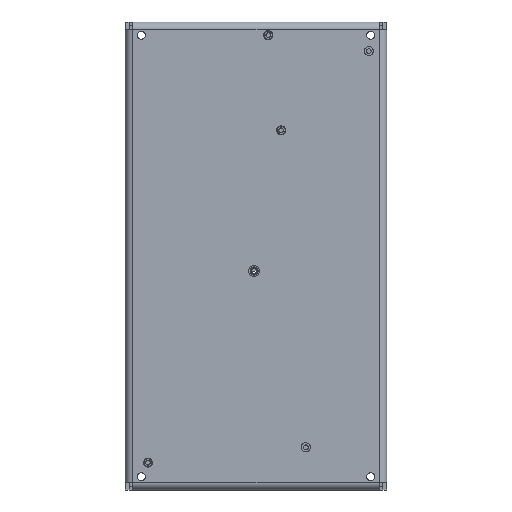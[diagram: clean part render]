
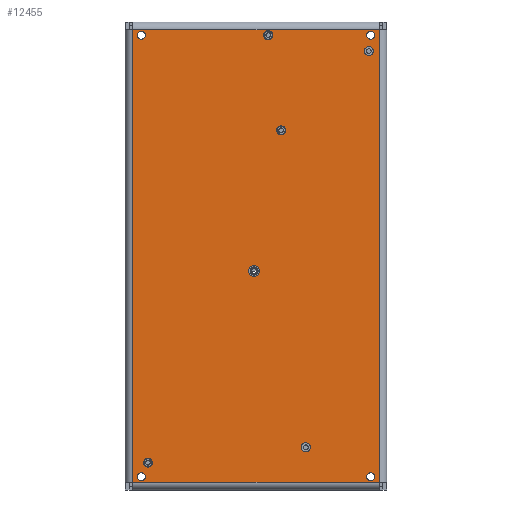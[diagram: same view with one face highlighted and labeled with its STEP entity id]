
A CAD part, front view. The second image highlights one B-rep face of the part: STEP entity #12455.
In plain terms, the highlighted planar face has unit normal (0, -1, 0).
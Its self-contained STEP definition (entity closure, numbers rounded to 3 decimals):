
#12455=ADVANCED_FACE('',(#28101,#28103,#28105,#28107,#28109,#28111,#28113,#28115,
#28117,#28119,#28121),#28123,.T.);
#28101=FACE_BOUND('',#28102,.T.);
#28102=EDGE_LOOP('',(#40599,#40600,#40601,#40602));
#28103=FACE_BOUND('',#28104,.T.);
#28104=EDGE_LOOP('',(#40603));
#28105=FACE_BOUND('',#28106,.T.);
#28106=EDGE_LOOP('',(#40604));
#28107=FACE_BOUND('',#28108,.T.);
#28108=EDGE_LOOP('',(#40605));
#28109=FACE_BOUND('',#28110,.T.);
#28110=EDGE_LOOP('',(#40606));
#28111=FACE_BOUND('',#28112,.T.);
#28112=EDGE_LOOP('',(#40607));
#28113=FACE_BOUND('',#28114,.T.);
#28114=EDGE_LOOP('',(#40608));
#28115=FACE_BOUND('',#28116,.T.);
#28116=EDGE_LOOP('',(#40609));
#28117=FACE_BOUND('',#28118,.T.);
#28118=EDGE_LOOP('',(#40610));
#28119=FACE_BOUND('',#28120,.T.);
#28120=EDGE_LOOP('',(#40611));
#28121=FACE_BOUND('',#28122,.T.);
#28122=EDGE_LOOP('',(#40612));
#28123=PLANE('',#28124);
#28124=AXIS2_PLACEMENT_3D('',#28125,#28126,#28127);
#28125=CARTESIAN_POINT('',(-69.5,0.,-124.5));
#28126=DIRECTION('',(0.,-1.,0.));
#28127=DIRECTION('',(0.,0.,-1.));
#40599=ORIENTED_EDGE('',*,*,#46655,.T.);
#40600=ORIENTED_EDGE('',*,*,#46938,.T.);
#40601=ORIENTED_EDGE('',*,*,#47171,.T.);
#40602=ORIENTED_EDGE('',*,*,#46940,.T.);
#40603=ORIENTED_EDGE('',*,*,#47175,.F.);
#40604=ORIENTED_EDGE('',*,*,#47176,.F.);
#40605=ORIENTED_EDGE('',*,*,#47177,.T.);
#40606=ORIENTED_EDGE('',*,*,#47178,.T.);
#40607=ORIENTED_EDGE('',*,*,#47179,.T.);
#40608=ORIENTED_EDGE('',*,*,#47180,.T.);
#40609=ORIENTED_EDGE('',*,*,#46672,.T.);
#40610=ORIENTED_EDGE('',*,*,#46673,.T.);
#40611=ORIENTED_EDGE('',*,*,#46674,.T.);
#40612=ORIENTED_EDGE('',*,*,#47181,.F.);
#46655=EDGE_CURVE('',#52098,#52101,#53829,.T.);
#46672=EDGE_CURVE('',#53854,#53854,#53855,.T.);
#46673=EDGE_CURVE('',#53856,#53856,#53857,.T.);
#46674=EDGE_CURVE('',#53858,#53858,#53859,.T.);
#46938=EDGE_CURVE('',#52101,#53805,#54224,.T.);
#46940=EDGE_CURVE('',#53808,#52098,#54226,.T.);
#47171=EDGE_CURVE('',#53805,#53808,#54584,.T.);
#47175=EDGE_CURVE('',#54591,#54591,#54592,.F.);
#47176=EDGE_CURVE('',#54593,#54593,#54594,.F.);
#47177=EDGE_CURVE('',#54595,#54595,#54596,.T.);
#47178=EDGE_CURVE('',#54597,#54597,#54598,.T.);
#47179=EDGE_CURVE('',#54599,#54599,#54600,.T.);
#47180=EDGE_CURVE('',#54601,#54601,#54602,.T.);
#47181=EDGE_CURVE('',#54603,#54603,#54604,.F.);
#52098=VERTEX_POINT('',#65407);
#52101=VERTEX_POINT('',#65415);
#53805=VERTEX_POINT('',#69829);
#53808=VERTEX_POINT('',#69837);
#53829=LINE('',#70493,#70494);
#53854=VERTEX_POINT('',#70667);
#53855=CIRCLE('',#70668,2.11);
#53856=VERTEX_POINT('',#70672);
#53857=CIRCLE('',#70673,2.11);
#53858=VERTEX_POINT('',#70677);
#53859=CIRCLE('',#70678,2.11);
#54224=LINE('',#72587,#72588);
#54226=LINE('',#72594,#72595);
#54584=LINE('',#73756,#73757);
#54591=VERTEX_POINT('',#74077);
#54592=CIRCLE('',#74078,2.4);
#54593=VERTEX_POINT('',#74082);
#54594=CIRCLE('',#74083,2.903);
#54595=VERTEX_POINT('',#74087);
#54596=CIRCLE('',#74088,2.15);
#54597=VERTEX_POINT('',#74092);
#54598=CIRCLE('',#74093,2.15);
#54599=VERTEX_POINT('',#74097);
#54600=CIRCLE('',#74098,2.15);
#54601=VERTEX_POINT('',#74102);
#54602=CIRCLE('',#74103,2.15);
#54603=VERTEX_POINT('',#74107);
#54604=CIRCLE('',#74108,2.4);
#65407=CARTESIAN_POINT('',(-65.5,0.,120.5));
#65415=CARTESIAN_POINT('',(-65.5,0.,-120.5));
#69829=CARTESIAN_POINT('',(65.5,0.,-120.5));
#69837=CARTESIAN_POINT('',(65.5,0.,120.5));
#70493=CARTESIAN_POINT('',(-65.5,0.,120.5));
#70494=VECTOR('',#70495,1.);
#70495=DIRECTION('',(0.,0.,-1.));
#70667=CARTESIAN_POINT('',(-57.5,0.,-107.89));
#70668=AXIS2_PLACEMENT_3D('',#70669,#70670,#70671);
#70669=CARTESIAN_POINT('',(-57.5,0.,-110.));
#70670=DIRECTION('',(-0.,1.,-0.));
#70671=DIRECTION('',(0.,0.,-1.));
#70672=CARTESIAN_POINT('',(6.5,0.,119.61));
#70673=AXIS2_PLACEMENT_3D('',#70674,#70675,#70676);
#70674=CARTESIAN_POINT('',(6.5,0.,117.5));
#70675=DIRECTION('',(-0.,1.,-0.));
#70676=DIRECTION('',(0.,0.,-1.));
#70677=CARTESIAN_POINT('',(13.375,0.,68.985));
#70678=AXIS2_PLACEMENT_3D('',#70679,#70680,#70681);
#70679=CARTESIAN_POINT('',(13.375,0.,66.875));
#70680=DIRECTION('',(-0.,1.,-0.));
#70681=DIRECTION('',(0.,0.,-1.));
#72587=CARTESIAN_POINT('',(-65.5,0.,-120.5));
#72588=VECTOR('',#72589,1.);
#72589=DIRECTION('',(1.,0.,0.));
#72594=CARTESIAN_POINT('',(65.5,0.,120.5));
#72595=VECTOR('',#72596,1.);
#72596=DIRECTION('',(-1.,0.,0.));
#73756=CARTESIAN_POINT('',(65.5,0.,-120.5));
#73757=VECTOR('',#73758,1.);
#73758=DIRECTION('',(0.,0.,1.));
#74077=CARTESIAN_POINT('',(61.457,0.,107.093));
#74078=AXIS2_PLACEMENT_3D('',#74079,#74080,#74081);
#74079=CARTESIAN_POINT('',(60.,0.,109.));
#74080=DIRECTION('',(-0.,1.,-0.));
#74081=DIRECTION('',(0.607,0.,-0.795));
#74082=CARTESIAN_POINT('',(-1.,0.,-10.903));
#74083=AXIS2_PLACEMENT_3D('',#74084,#74085,#74086);
#74084=CARTESIAN_POINT('',(-1.,0.,-8.));
#74085=DIRECTION('',(-0.,1.,-0.));
#74086=DIRECTION('',(0.,0.,-1.));
#74087=CARTESIAN_POINT('',(61.,0.,119.65));
#74088=AXIS2_PLACEMENT_3D('',#74089,#74090,#74091);
#74089=CARTESIAN_POINT('',(61.,0.,117.5));
#74090=DIRECTION('',(-0.,1.,-0.));
#74091=DIRECTION('',(0.,0.,-1.));
#74092=CARTESIAN_POINT('',(-61.,0.,119.65));
#74093=AXIS2_PLACEMENT_3D('',#74094,#74095,#74096);
#74094=CARTESIAN_POINT('',(-61.,0.,117.5));
#74095=DIRECTION('',(-0.,1.,-0.));
#74096=DIRECTION('',(0.,0.,-1.));
#74097=CARTESIAN_POINT('',(-61.,0.,-115.35));
#74098=AXIS2_PLACEMENT_3D('',#74099,#74100,#74101);
#74099=CARTESIAN_POINT('',(-61.,0.,-117.5));
#74100=DIRECTION('',(-0.,1.,-0.));
#74101=DIRECTION('',(0.,0.,-1.));
#74102=CARTESIAN_POINT('',(61.,0.,-115.35));
#74103=AXIS2_PLACEMENT_3D('',#74104,#74105,#74106);
#74104=CARTESIAN_POINT('',(61.,0.,-117.5));
#74105=DIRECTION('',(-0.,1.,-0.));
#74106=DIRECTION('',(0.,0.,-1.));
#74107=CARTESIAN_POINT('',(26.054,0.,-104.108));
#74108=AXIS2_PLACEMENT_3D('',#74109,#74110,#74111);
#74109=CARTESIAN_POINT('',(26.5,0.,-101.75));
#74110=DIRECTION('',(-0.,1.,-0.));
#74111=DIRECTION('',(-0.186,0.,-0.983));
